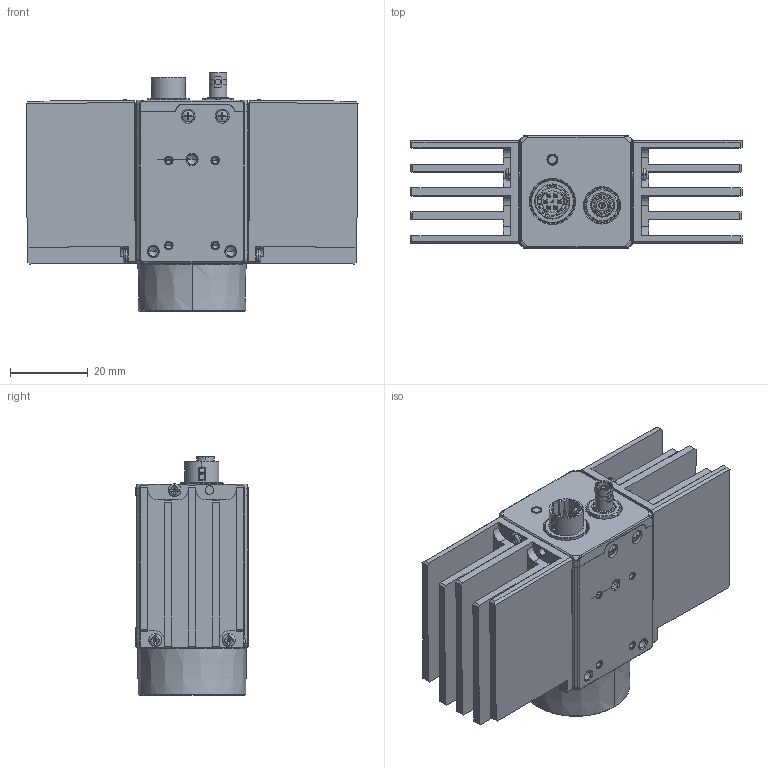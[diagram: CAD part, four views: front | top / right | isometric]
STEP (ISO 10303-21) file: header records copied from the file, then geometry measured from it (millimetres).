
FILE_DESCRIPTION((''),'2;1');
FILE_NAME('00-MV-CI050-Y1S-NH_ASM','2026-06-26T10:35:39',('pengxianzu'),(''),'CREO PARAMETRIC BY PTC INC, 2020044','CREO PARAMETRIC BY PTC INC, 2020044','');
FILE_SCHEMA(('CONFIG_CONTROL_DESIGN'));
Products named in the file (1): 00-MV-CI050-Y1S-NH_ASM
Bounding box: 85.63 x 29 x 61.63 mm (x, y, z)
Volume: 47883 mm3; surface area: 49846.2 mm2
Topology: 4 solids, 74 shells, 3551 faces, 10046 edges, 6552 vertices
Faces by surface type: plane 1669, cylinder 1087, cone 310, bspline 267, torus 205, sphere 13
Entity records: 157935 total; most frequent: CARTESIAN_POINT 68891, ORIENTED_EDGE 19704, DIRECTION 17047, EDGE_CURVE 10008, VERTEX_POINT 6552, AXIS2_PLACEMENT_3D 5981, VECTOR 5085, LINE 5085
